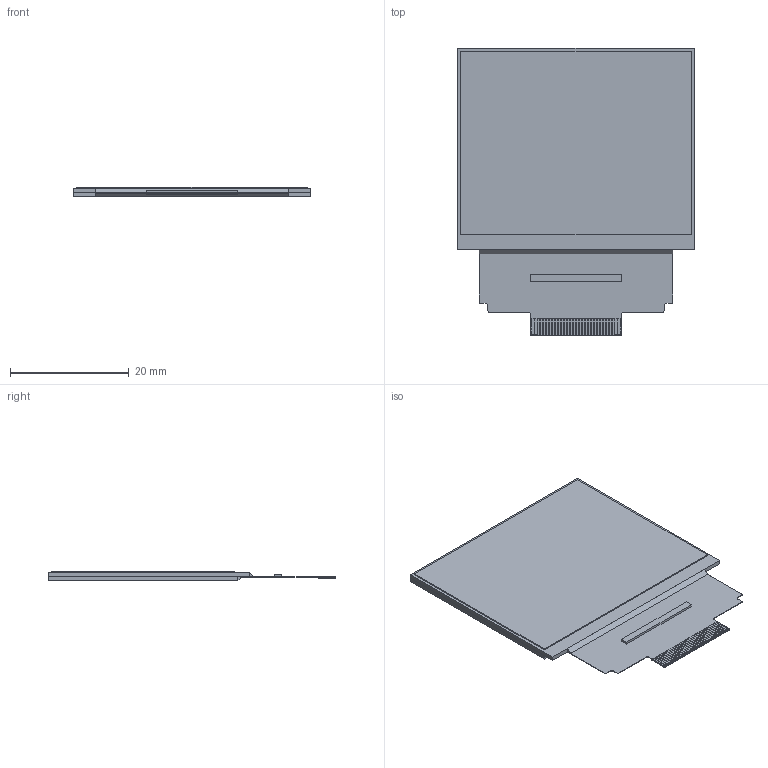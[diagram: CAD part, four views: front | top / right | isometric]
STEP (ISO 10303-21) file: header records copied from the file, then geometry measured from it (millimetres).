
FILE_DESCRIPTION (( 'STEP AP203' ), '1' );
FILE_NAME ('NHD-1.69-160128B.STEP', '2023-04-11T17:03:25', ( '' ), ( '' ), 'SwSTEP 2.0', 'SolidWorks 2019', '' );
FILE_SCHEMA (( 'CONFIG_CONTROL_DESIGN' ));
Length unit declared in the file: millimetre
Products named in the file (1): NHD-1.69-160128B
Bounding box: 39.9 x 48.5 x 1.6 mm (x, y, z)
Volume: 2163.2 mm3; surface area: 9190.2 mm2
Topology: 38 solids, 38 shells, 496 faces, 1260 edges, 840 vertices
Faces by surface type: plane 364, cylinder 132
Entity records: 14891 total; most frequent: CARTESIAN_POINT 2597, ORIENTED_EDGE 2520, DIRECTION 2518, EDGE_CURVE 1260, LINE 996, VECTOR 996, VERTEX_POINT 840, AXIS2_PLACEMENT_3D 761
